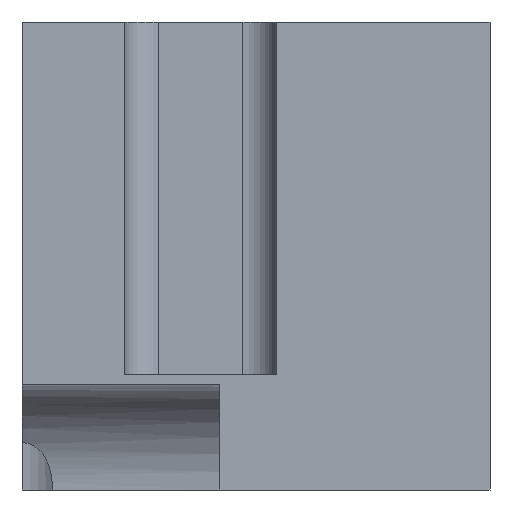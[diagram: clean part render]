
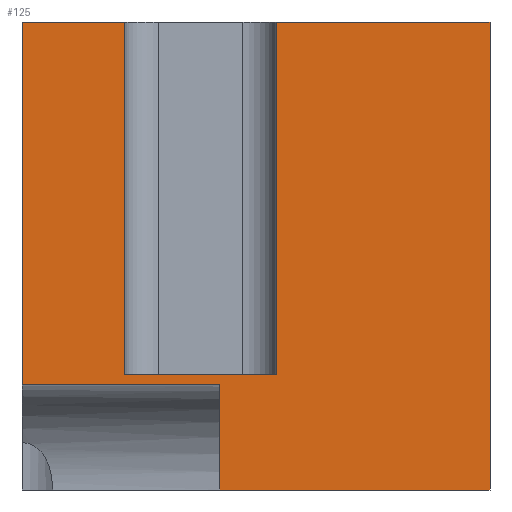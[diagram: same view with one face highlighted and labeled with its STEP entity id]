
A CAD part, front view. The second image highlights one B-rep face of the part: STEP entity #125.
In plain terms, the highlighted planar face has unit normal (0, -1, 0).
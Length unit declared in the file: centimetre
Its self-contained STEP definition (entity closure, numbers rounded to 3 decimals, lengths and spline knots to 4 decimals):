
#4 = EDGE_CURVE ( 'NONE', #336, #607, #830, .T. ) ;
#11 = DIRECTION ( 'NONE',  ( 0., 0., 1. ) ) ;
#20 = CARTESIAN_POINT ( 'NONE',  ( 0., 0., 1000. ) ) ;
#23 = CARTESIAN_POINT ( 'NONE',  ( 544.6809, 0., 247.3146 ) ) ;
#32 = LINE ( 'NONE', #759, #993 ) ;
#51 = CARTESIAN_POINT ( 'NONE',  ( 219.4353, 0., 247.3146 ) ) ;
#90 = EDGE_CURVE ( 'NONE', #340, #863, #240, .T. ) ;
#91 = CARTESIAN_POINT ( 'NONE',  ( 219.4353, 0., 1000. ) ) ;
#105 = ORIENTED_EDGE ( 'NONE', *, *, #4, .T. ) ;
#109 = VERTEX_POINT ( 'NONE', #957 ) ;
#125 = ADVANCED_FACE ( 'NONE', ( #658 ), #975, .F. ) ;
#158 = CARTESIAN_POINT ( 'NONE',  ( 422.0248, 0., 1000. ) ) ;
#190 = DIRECTION ( 'NONE',  ( 1., 0., 0. ) ) ;
#211 = LINE ( 'NONE', #856, #625 ) ;
#214 = DIRECTION ( 'NONE',  ( 0., 0., 1. ) ) ;
#224 = LINE ( 'NONE', #950, #253 ) ;
#240 = LINE ( 'NONE', #563, #429 ) ;
#246 = LINE ( 'NONE', #158, #868 ) ;
#249 = DIRECTION ( 'NONE',  ( 0., 0., 1. ) ) ;
#253 = VECTOR ( 'NONE', #395, 100. ) ;
#274 = VERTEX_POINT ( 'NONE', #20 ) ;
#284 = VERTEX_POINT ( 'NONE', #1027 ) ;
#294 = CARTESIAN_POINT ( 'NONE',  ( 0., 0., 224.546 ) ) ;
#310 = LINE ( 'NONE', #636, #832 ) ;
#316 = CARTESIAN_POINT ( 'NONE',  ( 544.6809, 0., 247.3146 ) ) ;
#321 = CARTESIAN_POINT ( 'NONE',  ( 219.4353, 0., 247.3146 ) ) ;
#324 = CARTESIAN_POINT ( 'NONE',  ( 1000., 0., 1000. ) ) ;
#336 = VERTEX_POINT ( 'NONE', #294 ) ;
#340 = VERTEX_POINT ( 'NONE', #51 ) ;
#359 = DIRECTION ( 'NONE',  ( 0., 0., -1. ) ) ;
#395 = DIRECTION ( 'NONE',  ( 1., 0., 0. ) ) ;
#409 = ORIENTED_EDGE ( 'NONE', *, *, #770, .F. ) ;
#420 = EDGE_CURVE ( 'NONE', #284, #970, #211, .T. ) ;
#429 = VECTOR ( 'NONE', #1038, 100. ) ;
#433 = ORIENTED_EDGE ( 'NONE', *, *, #635, .T. ) ;
#449 = EDGE_CURVE ( 'NONE', #274, #966, #224, .T. ) ;
#458 = EDGE_CURVE ( 'NONE', #340, #966, #748, .T. ) ;
#498 = EDGE_CURVE ( 'NONE', #109, #857, #32, .T. ) ;
#524 = VECTOR ( 'NONE', #190, 100. ) ;
#533 = DIRECTION ( 'NONE',  ( 1., 0., 0. ) ) ;
#548 = DIRECTION ( 'NONE',  ( 1., 0., 0. ) ) ;
#563 = CARTESIAN_POINT ( 'NONE',  ( 0., 0., 247.3146 ) ) ;
#571 = AXIS2_PLACEMENT_3D ( 'NONE', #574, #787, #214 ) ;
#574 = CARTESIAN_POINT ( 'NONE',  ( 0., 0., 1000. ) ) ;
#581 = ORIENTED_EDGE ( 'NONE', *, *, #810, .F. ) ;
#605 = CARTESIAN_POINT ( 'NONE',  ( 422.0248, 0., 224.546 ) ) ;
#607 = VERTEX_POINT ( 'NONE', #866 ) ;
#608 = CARTESIAN_POINT ( 'NONE',  ( 1000., 0., 1000. ) ) ;
#625 = VECTOR ( 'NONE', #548, 100. ) ;
#635 = EDGE_CURVE ( 'NONE', #274, #336, #310, .T. ) ;
#636 = CARTESIAN_POINT ( 'NONE',  ( 0., 0., 1000. ) ) ;
#653 = CARTESIAN_POINT ( 'NONE',  ( 1000., 0., 0. ) ) ;
#658 = FACE_OUTER_BOUND ( 'NONE', #928, .T. ) ;
#660 = VECTOR ( 'NONE', #11, 100. ) ;
#684 = ORIENTED_EDGE ( 'NONE', *, *, #449, .F. ) ;
#706 = VECTOR ( 'NONE', #889, 100. ) ;
#743 = ORIENTED_EDGE ( 'NONE', *, *, #498, .T. ) ;
#748 = LINE ( 'NONE', #321, #660 ) ;
#759 = CARTESIAN_POINT ( 'NONE',  ( 0., 0., 0. ) ) ;
#764 = LINE ( 'NONE', #23, #956 ) ;
#770 = EDGE_CURVE ( 'NONE', #109, #607, #246, .T. ) ;
#787 = DIRECTION ( 'NONE',  ( 0., 1., 0. ) ) ;
#810 = EDGE_CURVE ( 'NONE', #970, #857, #978, .T. ) ;
#830 = LINE ( 'NONE', #605, #524 ) ;
#832 = VECTOR ( 'NONE', #963, 100. ) ;
#840 = ORIENTED_EDGE ( 'NONE', *, *, #90, .F. ) ;
#856 = CARTESIAN_POINT ( 'NONE',  ( 0., 0., 1000. ) ) ;
#857 = VERTEX_POINT ( 'NONE', #653 ) ;
#863 = VERTEX_POINT ( 'NONE', #316 ) ;
#866 = CARTESIAN_POINT ( 'NONE',  ( 422.0248, 0., 224.546 ) ) ;
#868 = VECTOR ( 'NONE', #249, 100. ) ;
#889 = DIRECTION ( 'NONE',  ( 0., 0., -1. ) ) ;
#891 = ORIENTED_EDGE ( 'NONE', *, *, #420, .F. ) ;
#928 = EDGE_LOOP ( 'NONE', ( #840, #952, #684, #433, #105, #409, #743, #581, #891, #940 ) ) ;
#940 = ORIENTED_EDGE ( 'NONE', *, *, #958, .T. ) ;
#950 = CARTESIAN_POINT ( 'NONE',  ( 0., 0., 1000. ) ) ;
#952 = ORIENTED_EDGE ( 'NONE', *, *, #458, .T. ) ;
#956 = VECTOR ( 'NONE', #359, 100. ) ;
#957 = CARTESIAN_POINT ( 'NONE',  ( 422.0248, 0., 0. ) ) ;
#958 = EDGE_CURVE ( 'NONE', #284, #863, #764, .T. ) ;
#963 = DIRECTION ( 'NONE',  ( 0., 0., -1. ) ) ;
#966 = VERTEX_POINT ( 'NONE', #91 ) ;
#970 = VERTEX_POINT ( 'NONE', #608 ) ;
#975 = PLANE ( 'NONE',  #571 ) ;
#978 = LINE ( 'NONE', #324, #706 ) ;
#993 = VECTOR ( 'NONE', #533, 100. ) ;
#1027 = CARTESIAN_POINT ( 'NONE',  ( 544.6809, 0., 1000. ) ) ;
#1038 = DIRECTION ( 'NONE',  ( 1., 0., 0. ) ) ;
